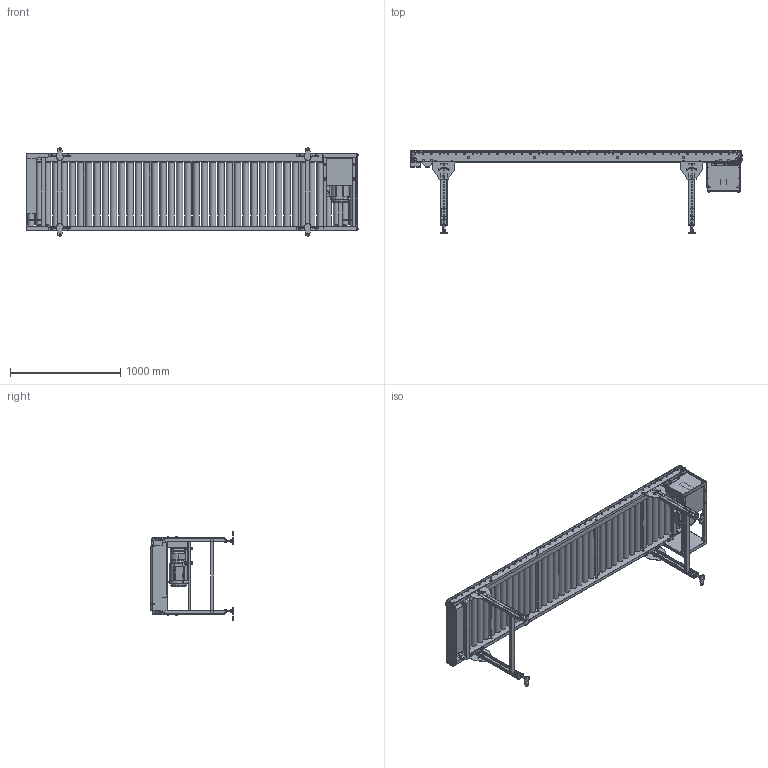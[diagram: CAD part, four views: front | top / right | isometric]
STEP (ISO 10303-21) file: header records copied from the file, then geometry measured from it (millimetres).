
FILE_DESCRIPTION( (''), '2;1');
FILE_NAME ('WEB-MCC1S・MCC2S-57-630-75-300-L.stp','2026-06-19T10:44:27',(''),(''),'spGate 21.9.5 (****-****-****-****)','','');
FILE_SCHEMA (('AUTOMOTIVE_DESIGN'));
Length unit declared in the file: millimetre
Products named in the file (33): WEB-MCC1S_MCC2S-57-630-75-300-L; TEMP_X_T-prt0; TEMP_X_T-prt1; TEMP_X_T-prt2; TEMP_X_T-prt3; TEMP_X_T-prt4; TEMP_X_T-prt5; TEMP_X_T-prt6; TEMP_X_T-prt7; TEMP_X_T-prt8; TEMP_X_T-prt9; TEMP_X_T-prt10; TEMP_X_T-prt11; TEMP_X_T-prt12; TEMP_X_T-prt13; TEMP_X_T-prt14; TEMP_X_T-prt15; TEMP_X_T-prt16; TEMP_X_T-prt17; TEMP_X_T-prt18; TEMP_X_T-prt19; TEMP_X_T-prt20; TEMP_X_T-prt21; TEMP_X_T-prt22; TEMP_X_T-prt23; TEMP_X_T-prt24; TEMP_X_T-prt25; TEMP_X_T-prt26; TEMP_X_T-prt27; TEMP_X_T-prt28; TEMP_X_T-prt29; TEMP_X_T-prt30; TEMP_X_T-prt31
Assembly tree (32 placements, depth 2):
  WEB-MCC1S_MCC2S-57-630-75-300-L
    TEMP_X_T-prt0
    TEMP_X_T-prt1
    TEMP_X_T-prt2
    TEMP_X_T-prt3
    TEMP_X_T-prt4
    TEMP_X_T-prt5
    TEMP_X_T-prt6
    TEMP_X_T-prt7
    TEMP_X_T-prt8
    TEMP_X_T-prt9
    TEMP_X_T-prt10
    TEMP_X_T-prt11
    TEMP_X_T-prt12
    TEMP_X_T-prt13
    TEMP_X_T-prt14
    TEMP_X_T-prt15
    TEMP_X_T-prt16
    TEMP_X_T-prt17
    TEMP_X_T-prt18
    TEMP_X_T-prt19
    TEMP_X_T-prt20
    TEMP_X_T-prt21
    TEMP_X_T-prt22
    TEMP_X_T-prt23
    TEMP_X_T-prt24
    TEMP_X_T-prt25
    TEMP_X_T-prt26
    TEMP_X_T-prt27
    TEMP_X_T-prt28
    TEMP_X_T-prt29
    TEMP_X_T-prt30
    TEMP_X_T-prt31
Bounding box: 3013.4 x 750 x 799.4 mm (x, y, z)
Volume: 93259351.4 mm3; surface area: 9238287.6 mm2
Topology: 32 solids, 32 shells, 3210 faces, 8218 edges, 5448 vertices
Faces by surface type: plane 2350, cylinder 801, bspline 47, sphere 12
Full cylindrical faces by diameter (mm): 5 x22, 5.1 x11, 7 x1, 8 x11, 9.2 x11, 10 x2, 11.8 x11, 12 x44, 13 x20, 13.8 x4, 16 x40, 17 x8, 21 x16, 24 x2, 27 x1, 28 x1, 31 x1, 47 x40, 57 x44, 63 x1, 149.6 x1, 153 x1
Entity records: 167070 total; most frequent: CARTESIAN_POINT 19630, DIRECTION 16742, ORIENTED_EDGE 16414, COLOUR_RGB 11449, PRESENTATION_STYLE_ASSIGNMENT 11449, STYLED_ITEM 11449, EDGE_CURVE 8207, DRAUGHTING_PRE_DEFINED_CURVE_FONT 8207
